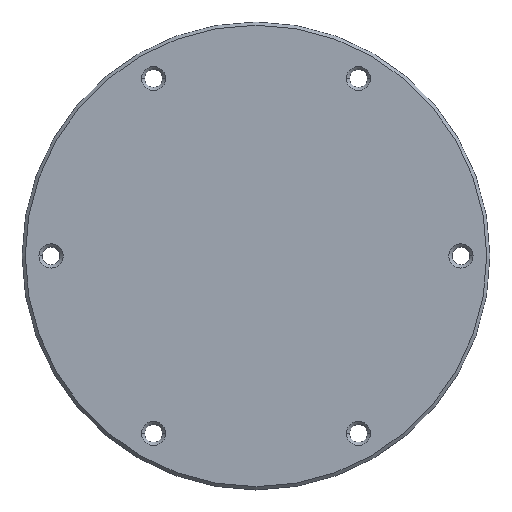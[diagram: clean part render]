
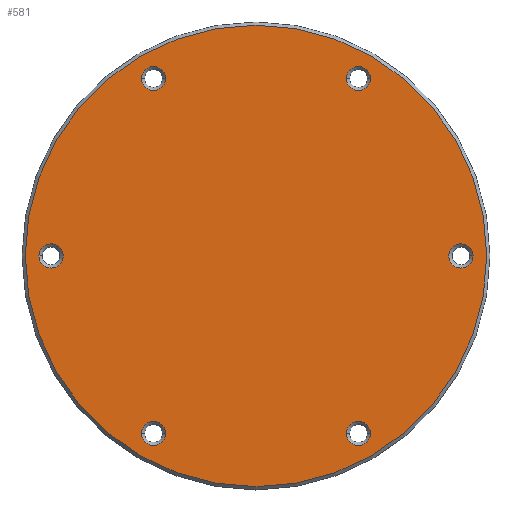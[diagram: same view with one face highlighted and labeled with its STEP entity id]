
A CAD part, top view. The second image highlights one B-rep face of the part: STEP entity #581.
In plain terms, the highlighted planar face has unit normal (0, 0, 1).
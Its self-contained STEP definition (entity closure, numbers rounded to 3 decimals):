
#1 = DIRECTION ( 'NONE',  ( 0., 0., -1. ) ) ;
#7 = DIRECTION ( 'NONE',  ( 1., 0., 0. ) ) ;
#8 = DIRECTION ( 'NONE',  ( 0., 0., -1. ) ) ;
#14 = DIRECTION ( 'NONE',  ( 0., 0., -1. ) ) ;
#28 = CARTESIAN_POINT ( 'NONE',  ( -25.4, 0., 6.35 ) ) ;
#37 = DIRECTION ( 'NONE',  ( 1., 0., 0. ) ) ;
#38 = DIRECTION ( 'NONE',  ( 1., 0., 0. ) ) ;
#46 = CARTESIAN_POINT ( 'NONE',  ( -11.2, -21.997, 6.35 ) ) ;
#52 = EDGE_CURVE ( 'NONE', #672, #374, #147, .T. ) ;
#66 = EDGE_CURVE ( 'NONE', #1161, #937, #628, .T. ) ;
#75 = CIRCLE ( 'NONE', #925, 1.5 ) ;
#77 = EDGE_LOOP ( 'NONE', ( #554, #237 ) ) ;
#128 = CARTESIAN_POINT ( 'NONE',  ( -12.7, -21.997, 6.35 ) ) ;
#135 = CARTESIAN_POINT ( 'NONE',  ( 28.6, 0., 6.35 ) ) ;
#144 = EDGE_LOOP ( 'NONE', ( #1085, #1016 ) ) ;
#145 = DIRECTION ( 'NONE',  ( 0., 0., -1. ) ) ;
#146 = PLANE ( 'NONE',  #576 ) ;
#147 = CIRCLE ( 'NONE', #557, 1.5 ) ;
#157 = EDGE_CURVE ( 'NONE', #1111, #801, #1089, .T. ) ;
#159 = AXIS2_PLACEMENT_3D ( 'NONE', #1267, #171, #572 ) ;
#163 = DIRECTION ( 'NONE',  ( 0., 0., -1. ) ) ;
#171 = DIRECTION ( 'NONE',  ( 0., 0., -1. ) ) ;
#184 = CARTESIAN_POINT ( 'NONE',  ( 12.7, 21.997, 6.35 ) ) ;
#195 = EDGE_LOOP ( 'NONE', ( #631, #905 ) ) ;
#200 = DIRECTION ( 'NONE',  ( 1., 0., 0. ) ) ;
#203 = CARTESIAN_POINT ( 'NONE',  ( -26.9, 0., 6.35 ) ) ;
#212 = CARTESIAN_POINT ( 'NONE',  ( 12.7, 21.997, 6.35 ) ) ;
#222 = DIRECTION ( 'NONE',  ( 0., 0., -1. ) ) ;
#233 = FACE_BOUND ( 'NONE', #195, .T. ) ;
#237 = ORIENTED_EDGE ( 'NONE', *, *, #52, .T. ) ;
#241 = CARTESIAN_POINT ( 'NONE',  ( -12.7, -21.997, 6.35 ) ) ;
#244 = CIRCLE ( 'NONE', #782, 1.5 ) ;
#256 = DIRECTION ( 'NONE',  ( 1., 0., 0. ) ) ;
#257 = FACE_BOUND ( 'NONE', #77, .T. ) ;
#260 = CARTESIAN_POINT ( 'NONE',  ( 14.2, 21.997, 6.35 ) ) ;
#270 = VERTEX_POINT ( 'NONE', #474 ) ;
#280 = CIRCLE ( 'NONE', #871, 1.5 ) ;
#283 = DIRECTION ( 'NONE',  ( 1., 0., 0. ) ) ;
#293 = CARTESIAN_POINT ( 'NONE',  ( 26.9, 0., 6.35 ) ) ;
#294 = DIRECTION ( 'NONE',  ( 1., 0., 0. ) ) ;
#304 = AXIS2_PLACEMENT_3D ( 'NONE', #28, #8, #294 ) ;
#306 = AXIS2_PLACEMENT_3D ( 'NONE', #128, #14, #408 ) ;
#320 = DIRECTION ( 'NONE',  ( 0., 0., -1. ) ) ;
#322 = CARTESIAN_POINT ( 'NONE',  ( -23.9, 0., 6.35 ) ) ;
#330 = CIRCLE ( 'NONE', #159, 1.5 ) ;
#348 = EDGE_CURVE ( 'NONE', #937, #1161, #330, .T. ) ;
#358 = DIRECTION ( 'NONE',  ( 1., 0., 0. ) ) ;
#366 = CARTESIAN_POINT ( 'NONE',  ( 0., 0., 6.35 ) ) ;
#374 = VERTEX_POINT ( 'NONE', #260 ) ;
#396 = CIRCLE ( 'NONE', #776, 1.5 ) ;
#399 = DIRECTION ( 'NONE',  ( 1., 0., 0. ) ) ;
#408 = DIRECTION ( 'NONE',  ( 1., 0., 0. ) ) ;
#419 = EDGE_LOOP ( 'NONE', ( #1265, #845 ) ) ;
#450 = EDGE_CURVE ( 'NONE', #270, #982, #244, .T. ) ;
#459 = CARTESIAN_POINT ( 'NONE',  ( 0., 0., 6.35 ) ) ;
#465 = FACE_BOUND ( 'NONE', #914, .T. ) ;
#474 = CARTESIAN_POINT ( 'NONE',  ( 11.2, -21.997, 6.35 ) ) ;
#491 = ORIENTED_EDGE ( 'NONE', *, *, #846, .T. ) ;
#515 = CARTESIAN_POINT ( 'NONE',  ( -14.2, -21.997, 6.35 ) ) ;
#542 = DIRECTION ( 'NONE',  ( 0., 0., 1. ) ) ;
#543 = DIRECTION ( 'NONE',  ( 0., 0., 1. ) ) ;
#546 = AXIS2_PLACEMENT_3D ( 'NONE', #241, #919, #1216 ) ;
#548 = CARTESIAN_POINT ( 'NONE',  ( 0., 0., 6.35 ) ) ;
#550 = AXIS2_PLACEMENT_3D ( 'NONE', #366, #833, #358 ) ;
#554 = ORIENTED_EDGE ( 'NONE', *, *, #985, .T. ) ;
#557 = AXIS2_PLACEMENT_3D ( 'NONE', #184, #1, #704 ) ;
#570 = CARTESIAN_POINT ( 'NONE',  ( -14.2, 21.997, 6.35 ) ) ;
#572 = DIRECTION ( 'NONE',  ( 1., 0., 0. ) ) ;
#576 = AXIS2_PLACEMENT_3D ( 'NONE', #459, #543, #38 ) ;
#581 = ADVANCED_FACE ( 'NONE', ( #966, #233, #1040, #1126, #257, #465, #660 ), #146, .T. ) ;
#582 = DIRECTION ( 'NONE',  ( 0., 0., -1. ) ) ;
#583 = ORIENTED_EDGE ( 'NONE', *, *, #647, .T. ) ;
#584 = CARTESIAN_POINT ( 'NONE',  ( 12.7, -21.997, 6.35 ) ) ;
#612 = ORIENTED_EDGE ( 'NONE', *, *, #1146, .T. ) ;
#628 = CIRCLE ( 'NONE', #781, 1.5 ) ;
#629 = DIRECTION ( 'NONE',  ( 1., 0., 0. ) ) ;
#631 = ORIENTED_EDGE ( 'NONE', *, *, #1006, .T. ) ;
#647 = EDGE_CURVE ( 'NONE', #1278, #1212, #960, .T. ) ;
#655 = ORIENTED_EDGE ( 'NONE', *, *, #831, .T. ) ;
#660 = FACE_BOUND ( 'NONE', #1122, .T. ) ;
#672 = VERTEX_POINT ( 'NONE', #713 ) ;
#704 = DIRECTION ( 'NONE',  ( 1., 0., 0. ) ) ;
#708 = CARTESIAN_POINT ( 'NONE',  ( 14.2, -21.997, 6.35 ) ) ;
#713 = CARTESIAN_POINT ( 'NONE',  ( 11.2, 21.997, 6.35 ) ) ;
#717 = VERTEX_POINT ( 'NONE', #570 ) ;
#756 = EDGE_CURVE ( 'NONE', #1212, #1278, #923, .T. ) ;
#769 = ORIENTED_EDGE ( 'NONE', *, *, #788, .T. ) ;
#776 = AXIS2_PLACEMENT_3D ( 'NONE', #1090, #222, #7 ) ;
#781 = AXIS2_PLACEMENT_3D ( 'NONE', #1073, #582, #200 ) ;
#782 = AXIS2_PLACEMENT_3D ( 'NONE', #584, #983, #283 ) ;
#788 = EDGE_CURVE ( 'NONE', #1270, #924, #946, .T. ) ;
#797 = EDGE_LOOP ( 'NONE', ( #491, #769 ) ) ;
#801 = VERTEX_POINT ( 'NONE', #46 ) ;
#815 = CIRCLE ( 'NONE', #306, 1.5 ) ;
#831 = EDGE_CURVE ( 'NONE', #717, #1038, #75, .T. ) ;
#833 = DIRECTION ( 'NONE',  ( 0., 0., 1. ) ) ;
#841 = AXIS2_PLACEMENT_3D ( 'NONE', #548, #542, #37 ) ;
#845 = ORIENTED_EDGE ( 'NONE', *, *, #450, .T. ) ;
#846 = EDGE_CURVE ( 'NONE', #924, #1270, #1275, .T. ) ;
#871 = AXIS2_PLACEMENT_3D ( 'NONE', #875, #1069, #399 ) ;
#875 = CARTESIAN_POINT ( 'NONE',  ( 12.7, -21.997, 6.35 ) ) ;
#905 = ORIENTED_EDGE ( 'NONE', *, *, #157, .T. ) ;
#914 = EDGE_LOOP ( 'NONE', ( #612, #655 ) ) ;
#919 = DIRECTION ( 'NONE',  ( 0., 0., -1. ) ) ;
#923 = CIRCLE ( 'NONE', #1055, 1.5 ) ;
#924 = VERTEX_POINT ( 'NONE', #1175 ) ;
#925 = AXIS2_PLACEMENT_3D ( 'NONE', #1150, #145, #1125 ) ;
#936 = EDGE_CURVE ( 'NONE', #982, #270, #280, .T. ) ;
#937 = VERTEX_POINT ( 'NONE', #1163 ) ;
#946 = CIRCLE ( 'NONE', #550, 28.6 ) ;
#960 = CIRCLE ( 'NONE', #304, 1.5 ) ;
#966 = FACE_OUTER_BOUND ( 'NONE', #797, .T. ) ;
#982 = VERTEX_POINT ( 'NONE', #708 ) ;
#983 = DIRECTION ( 'NONE',  ( 0., 0., -1. ) ) ;
#985 = EDGE_CURVE ( 'NONE', #374, #672, #1025, .T. ) ;
#1006 = EDGE_CURVE ( 'NONE', #801, #1111, #815, .T. ) ;
#1016 = ORIENTED_EDGE ( 'NONE', *, *, #348, .T. ) ;
#1025 = CIRCLE ( 'NONE', #1199, 1.5 ) ;
#1038 = VERTEX_POINT ( 'NONE', #1106 ) ;
#1040 = FACE_BOUND ( 'NONE', #419, .T. ) ;
#1055 = AXIS2_PLACEMENT_3D ( 'NONE', #1130, #163, #256 ) ;
#1069 = DIRECTION ( 'NONE',  ( 0., 0., -1. ) ) ;
#1073 = CARTESIAN_POINT ( 'NONE',  ( 25.4, 0., 6.35 ) ) ;
#1085 = ORIENTED_EDGE ( 'NONE', *, *, #66, .T. ) ;
#1089 = CIRCLE ( 'NONE', #546, 1.5 ) ;
#1090 = CARTESIAN_POINT ( 'NONE',  ( -12.7, 21.997, 6.35 ) ) ;
#1106 = CARTESIAN_POINT ( 'NONE',  ( -11.2, 21.997, 6.35 ) ) ;
#1111 = VERTEX_POINT ( 'NONE', #515 ) ;
#1122 = EDGE_LOOP ( 'NONE', ( #1186, #583 ) ) ;
#1125 = DIRECTION ( 'NONE',  ( 1., 0., 0. ) ) ;
#1126 = FACE_BOUND ( 'NONE', #144, .T. ) ;
#1130 = CARTESIAN_POINT ( 'NONE',  ( -25.4, 0., 6.35 ) ) ;
#1146 = EDGE_CURVE ( 'NONE', #1038, #717, #396, .T. ) ;
#1150 = CARTESIAN_POINT ( 'NONE',  ( -12.7, 21.997, 6.35 ) ) ;
#1161 = VERTEX_POINT ( 'NONE', #293 ) ;
#1163 = CARTESIAN_POINT ( 'NONE',  ( 23.9, 0., 6.35 ) ) ;
#1175 = CARTESIAN_POINT ( 'NONE',  ( -28.6, 0., 6.35 ) ) ;
#1186 = ORIENTED_EDGE ( 'NONE', *, *, #756, .T. ) ;
#1199 = AXIS2_PLACEMENT_3D ( 'NONE', #212, #320, #629 ) ;
#1212 = VERTEX_POINT ( 'NONE', #322 ) ;
#1216 = DIRECTION ( 'NONE',  ( 1., 0., 0. ) ) ;
#1265 = ORIENTED_EDGE ( 'NONE', *, *, #936, .T. ) ;
#1267 = CARTESIAN_POINT ( 'NONE',  ( 25.4, 0., 6.35 ) ) ;
#1270 = VERTEX_POINT ( 'NONE', #135 ) ;
#1275 = CIRCLE ( 'NONE', #841, 28.6 ) ;
#1278 = VERTEX_POINT ( 'NONE', #203 ) ;
